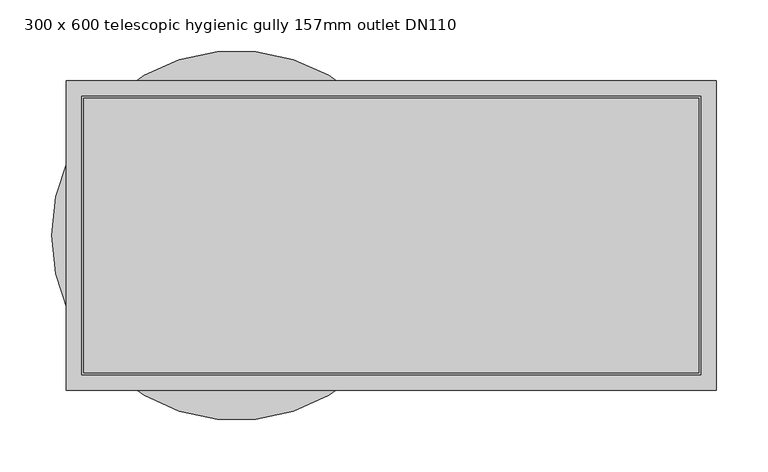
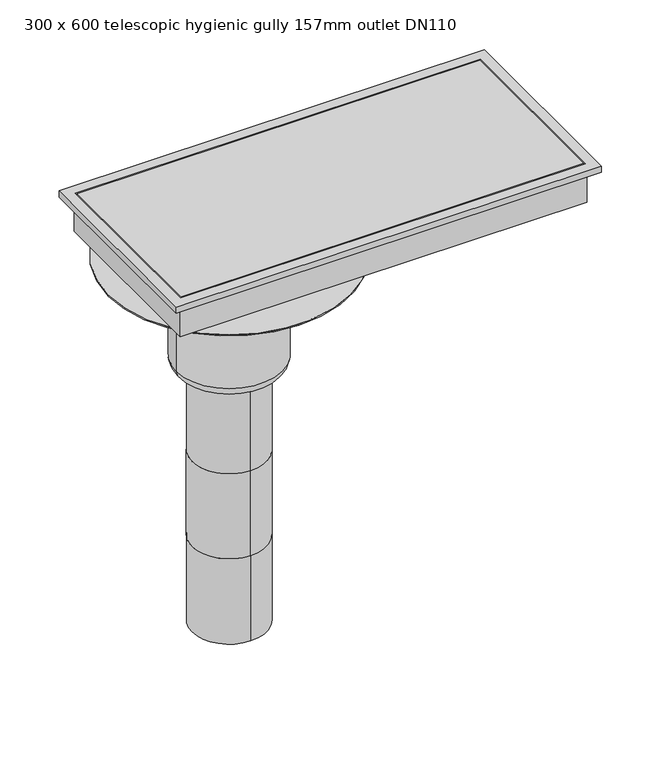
"""IFC4 building model written with IfcOpenShell, lengths in millimetres: sanitary terminal geometry, PF_ST_UN_Siphon telescopics eskis elongated hygiene first_ACO : 300 x 600 telescopic hygienic gully 157mm outlet DN110."""

from ifc_helpers import new_model, si_unit, point, frame, origin, origin_2d, place, context, project, spatial, polyline, circle_curve, ellipse_curve, trimmed, segment, composite_curve, outline, extrude, faceted_brep, source, transform, mapped, element, save
from ifc_brep_helpers import plane_surface, cylinder_surface, revolved_surface, advanced_brep


def sanitary_terminal_300_x_600_telescopic_hygienic_gully_157mm_61b128b2(model_context):
    return source(origin(), model_context, "Body", "SolidModel", [
        extrude(outline(composite_curve([segment(trimmed(circle_curve(origin_2d(), 71.5), [point((-71.5, 0.0))], [point((71.5, 0.0))], False, "CARTESIAN"), True, "CONTINUOUS"), segment(trimmed(circle_curve(origin_2d(), 71.5), [point((71.5, 0.0))], [point((-71.5, 0.0))], False, "CARTESIAN"), True, "CONTINUOUS")], self_intersect=False)), frame((0.0, 0.0, -240.0), z_axis=(0.0, 0.0, 1.0), x_axis=(1.0, 0.0, 0.0)), (0.0, 0.0, 1.0), 60.0),
        faceted_brep([(465.0, 150.0, -130.0), (465.0, 150.0, -120.0), (465.0, -150.0, -120.0), (465.0, -150.0, -130.0), (451.0, 136.0, -180.0), (451.0, 136.0, -130.0), (451.0, -136.0, -130.0), (451.0, -136.0, -180.0), (450.0, -135.0, -120.0), (450.0, 135.0, -120.0), (450.0, 135.0, -170.0), (450.0, -135.0, -170.0), (-165.0, -150.0, -120.0), (-165.0, -150.0, -130.0), (-151.0, -136.0, -130.0), (-151.0, -136.0, -180.0), (-150.0, -135.0, -120.0), (-150.0, -135.0, -170.0), (-165.0, 150.0, -120.0), (-165.0, 150.0, -130.0), (-151.0, 136.0, -130.0), (-151.0, 136.0, -180.0), (-150.0, 135.0, -120.0), (-150.0, 135.0, -170.0)], [[[0, 1, 2, 3]], [[4, 5, 6, 7]], [[8, 9, 10, 11]], [[3, 2, 12, 13]], [[7, 6, 14, 15]], [[16, 8, 11, 17]], [[13, 12, 18, 19]], [[15, 14, 20, 21]], [[22, 16, 17, 23]], [[2, 1, 18, 12], [9, 8, 16, 22]], [[1, 0, 19, 18]], [[0, 3, 13, 19], [6, 5, 20, 14]], [[5, 4, 21, 20]], [[4, 7, 15, 21]], [[9, 22, 23, 10]], [[11, 10, 23, 17]]]),
        extrude(outline(polyline([(448.0, 133.0), (448.0, -133.0), (-148.0, -133.0), (-148.0, 133.0), (448.0, 133.0)])), frame((0.0, 0.0, -170.0), z_axis=(0.0, 0.0, 1.0), x_axis=(1.0, 0.0, 0.0)), (0.0, 0.0, 1.0), 50.0),
        advanced_brep(
        [(0.0, -55.0, -758.0), (0.0, 55.0, -758.0), (0.0, -55.0, -624.6666667), (0.0, 55.0, -624.6666667), (0.0, -55.0, -491.3333333), (0.0, 55.0, -491.3333333), (0.0, 55.0, -358.0), (55.0, 0.0, -358.0), (0.0, -55.0, -358.0), (-55.0, 0.0, -358.0), (78.5, 0.0, -341.5), (-78.5, 0.0, -341.5), (-78.5, 0.0, -189.0), (78.5, 0.0, -189.0), (62.0, 0.0, -358.0), (-62.0, 0.0, -358.0), (-179.0, 0.0, -189.0), (179.0, 0.0, -189.0), (-179.0, 0.0, -187.0), (179.0, 0.0, -187.0)],
        [
            (0, 1, circle_curve(frame((0.0, 0.0, -758.0), z_axis=(0.0, 0.0, -1.0), x_axis=(0.0, 1.0, 0.0)), 55.0)),
            (1, 0, circle_curve(frame((0.0, 0.0, -758.0), z_axis=(0.0, 0.0, -1.0), x_axis=(0.0, 1.0, 0.0)), 55.0)),
            (0, 2),
            (2, 3, circle_curve(frame((0.0, 0.0, -624.6666667), z_axis=(0.0, 0.0, -1.0), x_axis=(0.0, 1.0, 0.0)), 55.0)),
            (3, 1),
            (3, 2, circle_curve(frame((0.0, 0.0, -624.6666667), z_axis=(0.0, 0.0, -1.0), x_axis=(0.0, 1.0, 0.0)), 55.0)),
            (4, 2),
            (3, 5),
            (5, 4, circle_curve(frame((0.0, 0.0, -491.3333333), z_axis=(0.0, 0.0, -1.0), x_axis=(1.0, 0.0, 0.0)), 55.0)),
            (4, 5, circle_curve(frame((0.0, 0.0, -491.3333333), z_axis=(0.0, 0.0, -1.0), x_axis=(-1.0, 0.0, 0.0)), 55.0)),
            (5, 6),
            (6, 7, circle_curve(frame((0.0, 0.0, -358.0), z_axis=(0.0, 0.0, -1.0), x_axis=(0.0, 1.0, 0.0)), 55.0)),
            (7, 8, circle_curve(frame((0.0, 0.0, -358.0), z_axis=(0.0, 0.0, -1.0), x_axis=(0.0, 1.0, 0.0)), 55.0)),
            (8, 4),
            (8, 9, circle_curve(frame((0.0, 0.0, -358.0), z_axis=(0.0, 0.0, -1.0), x_axis=(0.0, 1.0, 0.0)), 55.0)),
            (9, 6, circle_curve(frame((0.0, 0.0, -358.0), z_axis=(0.0, 0.0, -1.0), x_axis=(0.0, 1.0, 0.0)), 55.0)),
            (10, 11, circle_curve(frame((0.0, 0.0, -341.5), z_axis=(0.0, 0.0, 1.0), x_axis=(-1.0, 0.0, 0.0)), 78.5)),
            (11, 12),
            (12, 13, circle_curve(frame((0.0, 0.0, -189.0), z_axis=(0.0, 0.0, -1.0), x_axis=(-1.0, 0.0, 0.0)), 78.5)),
            (13, 10),
            (11, 10, circle_curve(frame((0.0, 0.0, -341.5), z_axis=(0.0, 0.0, 1.0), x_axis=(-1.0, 0.0, 0.0)), 78.5)),
            (13, 12, circle_curve(frame((0.0, 0.0, -189.0), z_axis=(0.0, 0.0, -1.0), x_axis=(-1.0, 0.0, 0.0)), 78.5)),
            (10, 14, circle_curve(frame((62.0, 0.0, -341.5), z_axis=(0.0, 1.0, 0.0), x_axis=(-1.0, 0.0, 0.0)), 16.5)),
            (14, 15, circle_curve(frame((0.0, 0.0, -358.0), z_axis=(0.0, 0.0, 1.0), x_axis=(-1.0, 0.0, 0.0)), 62.0)),
            (15, 11, circle_curve(frame((-62.0, 0.0, -341.5), z_axis=(0.0, 1.0, 0.0), x_axis=(1.0, 0.0, 0.0)), 16.5)),
            (15, 14, circle_curve(frame((0.0, 0.0, -358.0), z_axis=(0.0, 0.0, 1.0), x_axis=(-1.0, 0.0, 0.0)), 62.0)),
            (14, 7),
            (9, 15),
            (16, 17, circle_curve(frame((0.0, 0.0, -189.0), z_axis=(0.0, 0.0, -1.0), x_axis=(1.0, 0.0, 0.0)), 179.0)),
            (17, 16, circle_curve(frame((0.0, 0.0, -189.0), z_axis=(0.0, 0.0, -1.0), x_axis=(1.0, 0.0, 0.0)), 179.0)),
            (18, 19, circle_curve(frame((0.0, 0.0, -187.0), z_axis=(0.0, 0.0, 1.0), x_axis=(1.0, 0.0, 0.0)), 179.0)),
            (19, 18, circle_curve(frame((0.0, 0.0, -187.0), z_axis=(0.0, 0.0, 1.0), x_axis=(1.0, 0.0, 0.0)), 179.0)),
            (17, 19),
            (18, 16),
        ],
        [
            plane_surface(frame((0.0, 55.0, -758.0), z_axis=(0.0, 0.0, -1.0), x_axis=(1.0, 0.0, 0.0))),
            cylinder_surface(frame((0.0, 0.0, -624.6666667), z_axis=(0.0, 0.0, -1.0), x_axis=(0.0, 1.0, 0.0)), 55.0),
            cylinder_surface(frame((0.0, 0.0, -491.3333333), z_axis=(0.0, 0.0, -1.0), x_axis=(1.0, 0.0, 0.0)), 55.0),
            cylinder_surface(frame((0.0, 0.0, -491.3333333), z_axis=(0.0, 0.0, -1.0), x_axis=(-1.0, 0.0, 0.0)), 55.0),
            cylinder_surface(frame((0.0, 0.0, -358.0), z_axis=(0.0, 0.0, -1.0), x_axis=(0.0, 1.0, 0.0)), 55.0),
            cylinder_surface(frame((0.0, 0.0, -127.0), z_axis=(0.0, 0.0, -1.0), x_axis=(-1.0, 0.0, 0.0)), 78.5),
            revolved_surface(trimmed(ellipse_curve(frame((-62.0, 0.0, -341.5), z_axis=(0.0, -1.0, 0.0), x_axis=(1.0, 0.0, 0.0)), 16.5, 16.5), [point((-78.5, 0.0, -341.5))], [point((-62.0, 0.0, -358.0))], True, "CARTESIAN"), (0.0, 0.0, -127.0), (0.0, 0.0, -1.0)),
            plane_surface(frame((0.0, 0.0, -358.0), z_axis=(0.0, 0.0, -1.0), x_axis=(-1.0, 0.0, 0.0))),
            plane_surface(frame((179.0, 0.0, -189.0), z_axis=(0.0, 0.0, -1.0), x_axis=(0.0, -1.0, 0.0))),
            plane_surface(frame((179.0, 0.0, -187.0), z_axis=(0.0, 0.0, 1.0), x_axis=(0.0, 1.0, 0.0))),
            cylinder_surface(frame((0.0, 0.0, -189.0), z_axis=(0.0, 0.0, 1.0), x_axis=(1.0, 0.0, 0.0)), 179.0),
        ],
        [
            (0, [[1, 2]]),
            (1, [[-1, 3, 4, 5]]),
            (1, [[-2, -5, 6, -3]]),
            (2, [[7, -6, 8, 9]]),
            (3, [[-7, 10, -8, -4]]),
            (4, [[11, 12, 13, 14, -9]]),
            (4, [[-11, -10, -14, 15, 16]]),
            (5, [[17, 18, 19, 20]]),
            (5, [[-18, 21, -20, 22]]),
            (6, [[-17, 23, 24, 25]]),
            (6, [[-21, -25, 26, -23]]),
            (7, [[-24, 27, -12, -16, 28]]),
            (7, [[-26, -28, -15, -13, -27]]),
            (8, [[29, 30], [-19, -22]]),
            (9, [[31, 32]]),
            (10, [[-30, 33, -31, 34]]),
            (10, [[-29, -34, -32, -33]]),
        ],
    ),
    ])


if __name__ == "__main__":
    model = new_model("IFC4")
    model_context = context("Model", 3, world=origin())
    ifc_project = project(units=[si_unit("LENGTHUNIT", "METRE", prefix="MILLI")], contexts=[model_context])
    site = spatial("IfcSite", under=ifc_project)
    building = spatial("IfcBuilding", under=site)
    placement = place(None, origin())
    sanitary_terminal_300_x_600_telescopic_hygienic_gully_157mm_shape = sanitary_terminal_300_x_600_telescopic_hygienic_gully_157mm_61b128b2(model_context)
    element("IfcSanitaryTerminal", 1, ObjectType="PF_ST_UN_Siphon telescopics eskis elongated hygiene first_ACO : 300 x 600 telescopic hygienic gully 157mm outlet DN110", at=placement, inside=building, context=model_context, shape_type="MappedRepresentation", body=[
        mapped(sanitary_terminal_300_x_600_telescopic_hygienic_gully_157mm_shape, transform((0.0, 0.0, 0.0), x_axis=(1.0, 0.0, 0.0), y_axis=(0.0, 1.0, 0.0), z_axis=(0.0, 0.0, 1.0))),
    ])
    save(model, "model.ifc")
